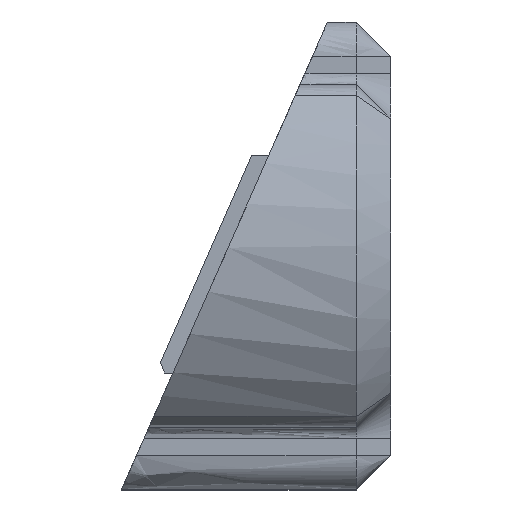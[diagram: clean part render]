
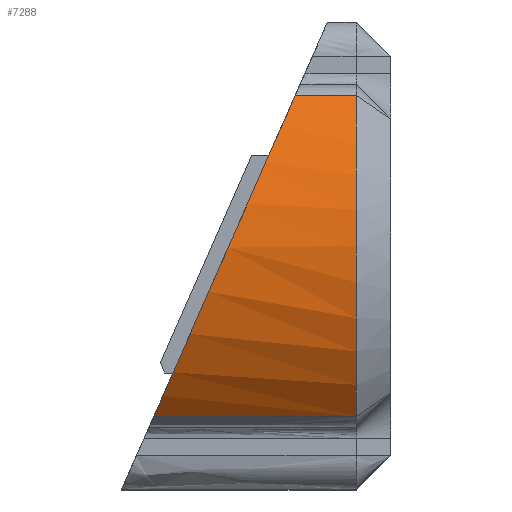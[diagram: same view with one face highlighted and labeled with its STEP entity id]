
A CAD part, left-side view. The second image highlights one B-rep face of the part: STEP entity #7288.
In plain terms, the highlighted free-form (B-spline) face has degree [3, 1] with [4, 2] control points.
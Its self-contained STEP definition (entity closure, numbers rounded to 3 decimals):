
#24 = ORIENTED_EDGE ( 'NONE', *, *, #5818, .T. ) ;
#106 = CARTESIAN_POINT ( 'NONE',  ( -58.489, 2.991, 14.057 ) ) ;
#129 = VERTEX_POINT ( 'NONE', #1665 ) ;
#132 = EDGE_CURVE ( 'NONE', #129, #5375, #6352, .T. ) ;
#537 = CARTESIAN_POINT ( 'NONE',  ( -58.489, 20.728, -14.057 ) ) ;
#1076 = CARTESIAN_POINT ( 'NONE',  ( -66.348, 2.991, -5.724 ) ) ;
#1251 = FACE_OUTER_BOUND ( 'NONE', #4930, .T. ) ;
#1308 = VECTOR ( 'NONE', #1639, 1000. ) ;
#1340 = CARTESIAN_POINT ( 'NONE',  ( -58.489, 20.728, -14.057 ) ) ;
#1448 = ORIENTED_EDGE ( 'NONE', *, *, #6664, .T. ) ;
#1639 = DIRECTION ( 'NONE',  ( 0., -1., 0. ) ) ;
#1665 = CARTESIAN_POINT ( 'NONE',  ( -58.489, 2.991, 14.057 ) ) ;
#1695 = LINE ( 'NONE', #3410, #1308 ) ;
#1897 =( BOUNDED_SURFACE ( )  B_SPLINE_SURFACE ( 3, 1, ( 
 ( #2799, #6245 ),
 ( #5658, #1076 ),
 ( #7409, #5681 ),
 ( #3958, #6829 ) ),
 .UNSPECIFIED., .F., .F., .T. ) 
 B_SPLINE_SURFACE_WITH_KNOTS ( ( 4, 4 ),
 ( 2, 2 ),
 ( 0., 0.198 ),
 ( 0., 1. ),
 .UNSPECIFIED. ) 
 GEOMETRIC_REPRESENTATION_ITEM ( )  RATIONAL_B_SPLINE_SURFACE ( (
 ( 0.579, 0.579),
 ( 0.474, 0.474),
 ( 0.474, 0.474),
 ( 0.579, 0.579) ) ) 
 REPRESENTATION_ITEM ( '' )  SURFACE ( )  );
#2478 = CARTESIAN_POINT ( 'NONE',  ( -66.348, 17.056, -5.724 ) ) ;
#2658 = ORIENTED_EDGE ( 'NONE', *, *, #4384, .T. ) ;
#2799 = CARTESIAN_POINT ( 'NONE',  ( -58.489, 20.835, -14.057 ) ) ;
#3410 = CARTESIAN_POINT ( 'NONE',  ( -58.489, 23.567, -14.057 ) ) ;
#3464 =( BOUNDED_CURVE ( )  B_SPLINE_CURVE ( 3, ( #5870, #4680, #2478, #1340 ),
 .UNSPECIFIED., .F., .F. ) 
 B_SPLINE_CURVE_WITH_KNOTS ( ( 4, 4 ),
 ( 0., 1. ),
 .UNSPECIFIED. ) 
 CURVE ( )  GEOMETRIC_REPRESENTATION_ITEM ( )  RATIONAL_B_SPLINE_CURVE ( ( 1., 0.819, 0.819, 1. ) ) 
 REPRESENTATION_ITEM ( '' )  );
#3958 = CARTESIAN_POINT ( 'NONE',  ( -58.489, 20.835, 14.057 ) ) ;
#4111 = CARTESIAN_POINT ( 'NONE',  ( -66.348, 2.991, 5.724 ) ) ;
#4384 = EDGE_CURVE ( 'NONE', #6846, #6720, #1695, .T. ) ;
#4503 = CARTESIAN_POINT ( 'NONE',  ( -58.489, 23.567, 14.057 ) ) ;
#4680 = CARTESIAN_POINT ( 'NONE',  ( -66.348, 12.011, 5.724 ) ) ;
#4785 = VECTOR ( 'NONE', #7470, 1000. ) ;
#4930 = EDGE_LOOP ( 'NONE', ( #2658, #24, #5793, #1448 ) ) ;
#5303 = CARTESIAN_POINT ( 'NONE',  ( -58.489, 8.339, 14.057 ) ) ;
#5375 = VERTEX_POINT ( 'NONE', #5303 ) ;
#5658 = CARTESIAN_POINT ( 'NONE',  ( -66.348, 20.835, -5.724 ) ) ;
#5681 = CARTESIAN_POINT ( 'NONE',  ( -66.348, 2.991, 5.724 ) ) ;
#5793 = ORIENTED_EDGE ( 'NONE', *, *, #132, .T. ) ;
#5818 = EDGE_CURVE ( 'NONE', #6720, #129, #6553, .T. ) ;
#5827 = CARTESIAN_POINT ( 'NONE',  ( -58.489, 2.991, -14.057 ) ) ;
#5870 = CARTESIAN_POINT ( 'NONE',  ( -58.489, 8.339, 14.057 ) ) ;
#6245 = CARTESIAN_POINT ( 'NONE',  ( -58.489, 2.991, -14.057 ) ) ;
#6306 = CARTESIAN_POINT ( 'NONE',  ( -66.348, 2.991, -5.724 ) ) ;
#6352 = LINE ( 'NONE', #4503, #4785 ) ;
#6553 =( BOUNDED_CURVE ( )  B_SPLINE_CURVE ( 3, ( #7441, #6306, #4111, #106 ),
 .UNSPECIFIED., .F., .T. ) 
 B_SPLINE_CURVE_WITH_KNOTS ( ( 4, 4 ),
 ( 0., 1. ),
 .UNSPECIFIED. ) 
 CURVE ( )  GEOMETRIC_REPRESENTATION_ITEM ( )  RATIONAL_B_SPLINE_CURVE ( ( 1., 0.819, 0.819, 1. ) ) 
 REPRESENTATION_ITEM ( '' )  );
#6664 = EDGE_CURVE ( 'NONE', #5375, #6846, #3464, .T. ) ;
#6720 = VERTEX_POINT ( 'NONE', #5827 ) ;
#6829 = CARTESIAN_POINT ( 'NONE',  ( -58.489, 2.991, 14.057 ) ) ;
#6846 = VERTEX_POINT ( 'NONE', #537 ) ;
#7288 = ADVANCED_FACE ( 'NONE', ( #1251 ), #1897, .T. ) ;
#7409 = CARTESIAN_POINT ( 'NONE',  ( -66.348, 20.835, 5.724 ) ) ;
#7441 = CARTESIAN_POINT ( 'NONE',  ( -58.489, 2.991, -14.057 ) ) ;
#7470 = DIRECTION ( 'NONE',  ( 0., 1., 0. ) ) ;
